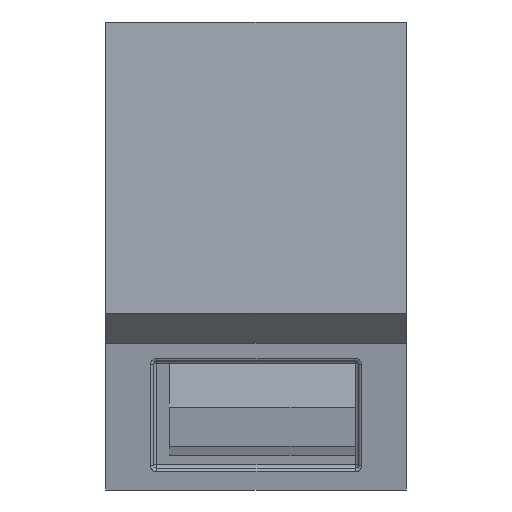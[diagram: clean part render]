
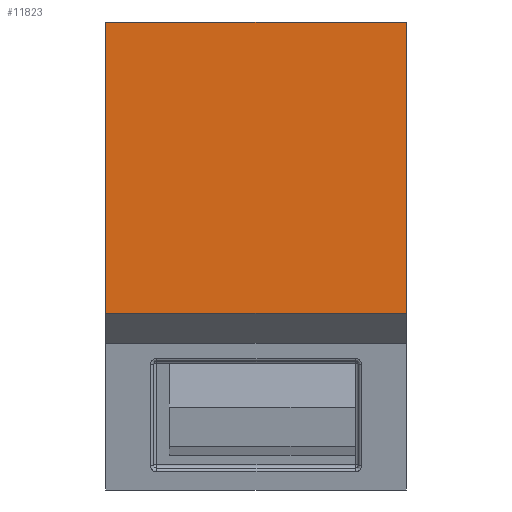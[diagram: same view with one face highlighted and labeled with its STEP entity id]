
A CAD part, front view. The second image highlights one B-rep face of the part: STEP entity #11823.
In plain terms, the highlighted planar face has unit normal (0, -1, 0).
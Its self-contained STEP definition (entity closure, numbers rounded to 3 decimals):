
#2 = DIRECTION ( 'NONE',  ( 0., 0., -1. ) ) ;
#607 = CARTESIAN_POINT ( 'NONE',  ( 24.25, 0., 20.75 ) ) ;
#1044 = ORIENTED_EDGE ( 'NONE', *, *, #13087, .T. ) ;
#1197 = VERTEX_POINT ( 'NONE', #5818 ) ;
#1308 = EDGE_CURVE ( 'NONE', #1197, #8958, #2258, .T. ) ;
#1470 = VECTOR ( 'NONE', #8077, 1000. ) ;
#2066 = CARTESIAN_POINT ( 'NONE',  ( 24.25, 0., 20.75 ) ) ;
#2258 = LINE ( 'NONE', #6638, #7199 ) ;
#2834 = CARTESIAN_POINT ( 'NONE',  ( 24.25, 0., -26.25 ) ) ;
#5818 = CARTESIAN_POINT ( 'NONE',  ( -24.25, 0., -26.25 ) ) ;
#6285 = CARTESIAN_POINT ( 'NONE',  ( -24.25, 0., 20.75 ) ) ;
#6536 = CARTESIAN_POINT ( 'NONE',  ( 24.25, 0., 0. ) ) ;
#6638 = CARTESIAN_POINT ( 'NONE',  ( -24.25, 0., 0. ) ) ;
#6734 = ORIENTED_EDGE ( 'NONE', *, *, #1308, .F. ) ;
#7199 = VECTOR ( 'NONE', #8957, 1000. ) ;
#7675 = EDGE_CURVE ( 'NONE', #8307, #7905, #11912, .T. ) ;
#7905 = VERTEX_POINT ( 'NONE', #2066 ) ;
#8077 = DIRECTION ( 'NONE',  ( -1., 0., 0. ) ) ;
#8307 = VERTEX_POINT ( 'NONE', #2834 ) ;
#8666 = DIRECTION ( 'NONE',  ( 0., -1., 0. ) ) ;
#8957 = DIRECTION ( 'NONE',  ( 0., 0., 1. ) ) ;
#8958 = VERTEX_POINT ( 'NONE', #6285 ) ;
#9106 = AXIS2_PLACEMENT_3D ( 'NONE', #13078, #8666, #2 ) ;
#9356 = LINE ( 'NONE', #607, #1470 ) ;
#10011 = VECTOR ( 'NONE', #13394, 1000. ) ;
#10331 = LINE ( 'NONE', #13466, #10011 ) ;
#10519 = FACE_OUTER_BOUND ( 'NONE', #13927, .T. ) ;
#10689 = EDGE_CURVE ( 'NONE', #8307, #1197, #10331, .T. ) ;
#10840 = DIRECTION ( 'NONE',  ( 0., 0., 1. ) ) ;
#11003 = VECTOR ( 'NONE', #10840, 1000. ) ;
#11823 = ADVANCED_FACE ( 'NONE', ( #10519 ), #12720, .T. ) ;
#11912 = LINE ( 'NONE', #6536, #11003 ) ;
#12332 = ORIENTED_EDGE ( 'NONE', *, *, #10689, .F. ) ;
#12720 = PLANE ( 'NONE',  #9106 ) ;
#13078 = CARTESIAN_POINT ( 'NONE',  ( 24.25, 0., 0. ) ) ;
#13087 = EDGE_CURVE ( 'NONE', #7905, #8958, #9356, .T. ) ;
#13368 = ORIENTED_EDGE ( 'NONE', *, *, #7675, .T. ) ;
#13394 = DIRECTION ( 'NONE',  ( -1., 0., 0. ) ) ;
#13466 = CARTESIAN_POINT ( 'NONE',  ( 24.25, 0., -26.25 ) ) ;
#13927 = EDGE_LOOP ( 'NONE', ( #6734, #12332, #13368, #1044 ) ) ;
